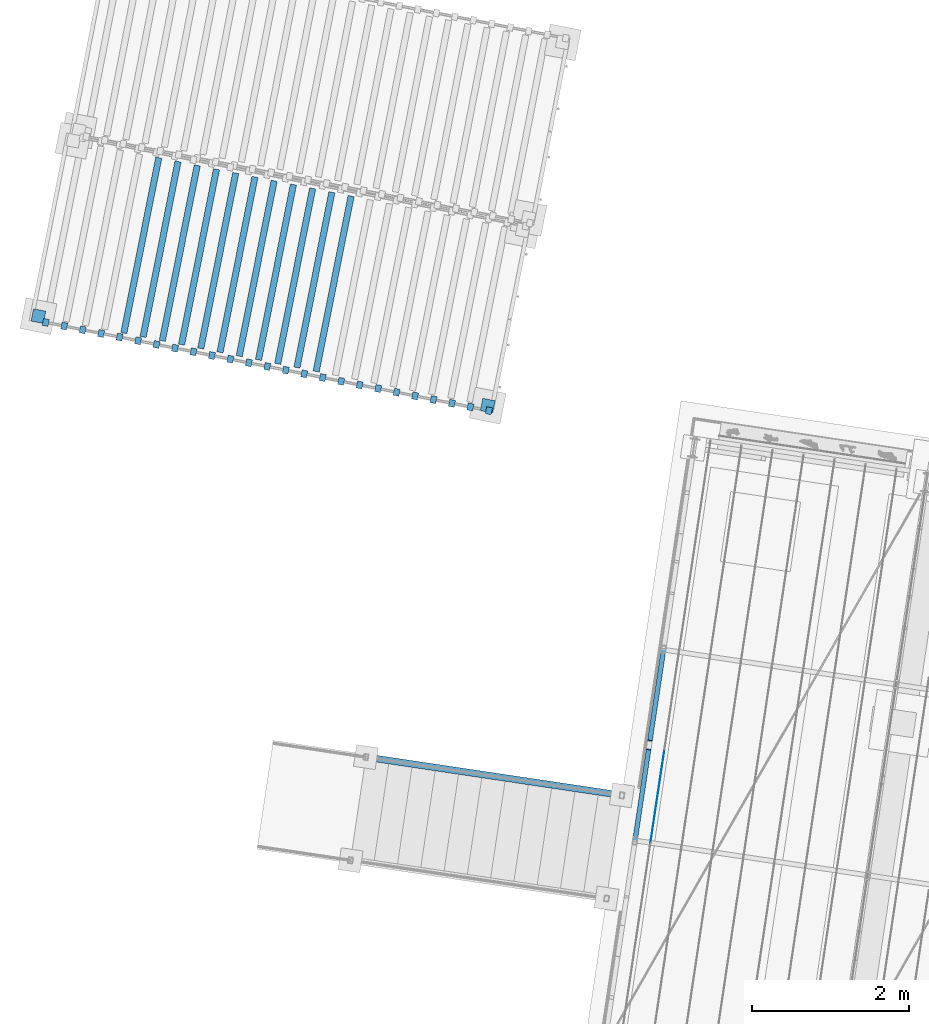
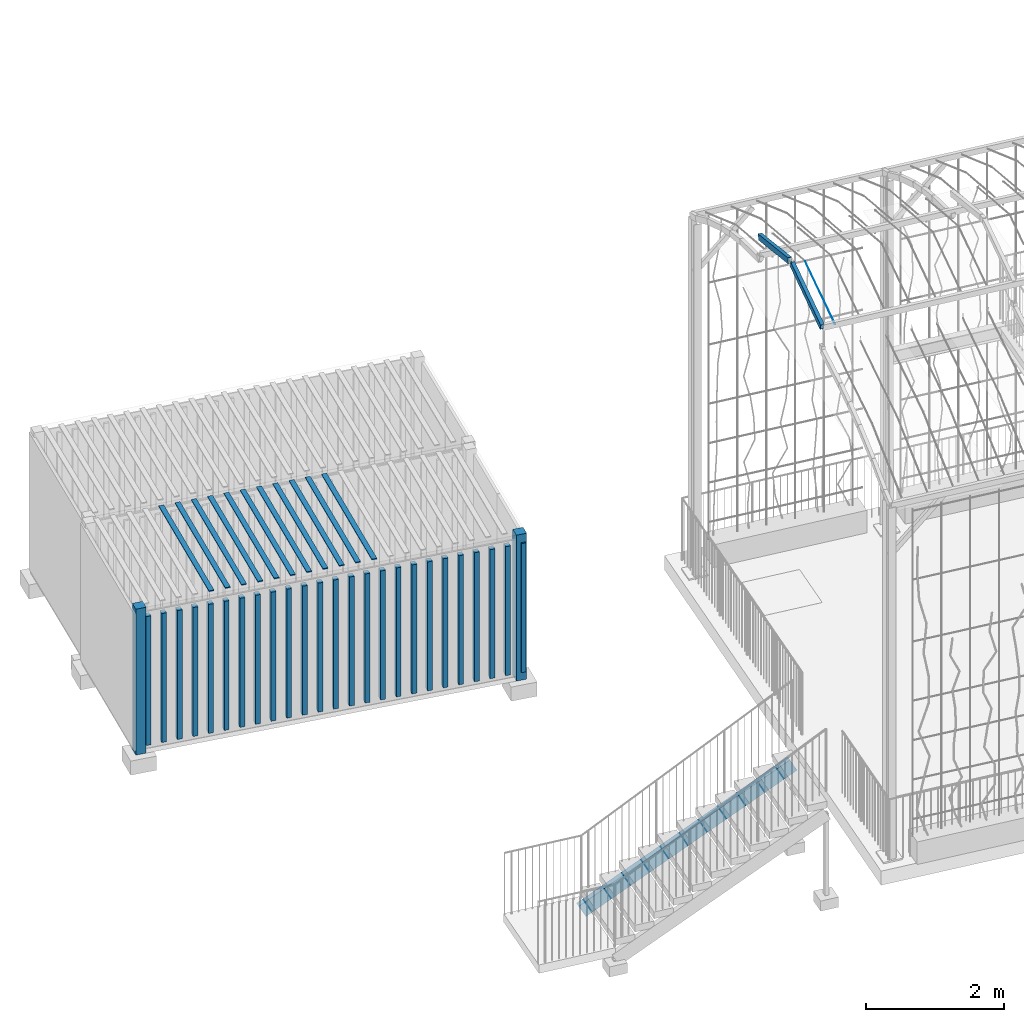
# One storey, part 26 of 142: 42 members, 3 elements without a shape of their own.
"""IFC4 building model written with IfcOpenShell, lengths in metres."""

from ifc_helpers import new_model, si_unit, direction, frame, origin_with_axes, place, context, subcontext, project, spatial, polyline, hollow_rectangle, circle, outline, extrude, material, material_profile, profile_set, profile_usage, type_object, element, aggregate, save


model = new_model("IFC4")

# Units and contexts
model_context = context("Model", 3, precision=1e-05, world=origin_with_axes(), true_north=direction((0.0, 1.0)))
body_context = subcontext(model_context, "Body", "Model", "MODEL_VIEW")
ifc_project = project(units=[si_unit("AREAUNIT", "SQUARE_METRE"), si_unit("VOLUMEUNIT", "CUBIC_METRE"), si_unit("LENGTHUNIT", "METRE")], contexts=[model_context])

# Site, building, storey
site_placement = place(None, origin_with_axes())
site = spatial("IfcSite", under=ifc_project, at=site_placement, Name="Lares · Rua das Mercês · artigo 4771")
building_placement = place(site_placement, frame((15.0, 9.7, 14.65), z_axis=(0.0, 0.0, 1.0), x_axis=(0.989015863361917, -0.147809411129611, 0.0)))
building = spatial("IfcBuilding", under=site, at=building_placement, Name="Casa Sobreposta")
storey_placement = place(building_placement, origin_with_axes())
storey = spatial("IfcBuildingStorey", under=building, at=storey_placement, Name="00 · Habitação e estacionamento", Elevation=14.65)

# Stair, member
stair_placement = place(storey_placement, origin_with_axes())
stair = element("IfcStair", 1, at=stair_placement, inside=storey, Name="Jardim · escada pela fachada poente", PredefinedType="STRAIGHT_RUN_STAIR")
ifc_material_1 = material(Name="Aço pintado / Stahl lackiert", Category="steel")
ifc_material_profile_1 = material_profile(ifc_material_1, outline(polyline([(-0.0425, -0.12), (0.0425, -0.12), (0.0425, -0.1102), (-0.0325, -0.1102), (-0.0325, 0.1102), (0.0425, 0.1102), (0.0425, 0.12), (-0.0425, 0.12), (-0.0425, -0.12)])))
ifc_profile_set_1 = profile_set([ifc_material_profile_1], Name="C240")
ifc_profile_usage_1 = profile_usage(ifc_profile_set_1)
member_type_1 = type_object("IfcMemberType", Name="C240 / steel", PredefinedType="NOTDEFINED", material=ifc_profile_set_1)
member_1_placement = place(stair_placement, frame((-6.25, 1.765, -0.419166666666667), z_axis=(-0.883369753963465, 0.0, -0.468676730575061), x_axis=(0.0, 1.0, 0.0)))
member_1 = element("IfcMember", 2, at=member_1_placement, type_object=member_type_1, material=ifc_profile_usage_1, Name="Jardim · longarina poente", context=body_context, shape_type="SweptSolid", body=[
    extrude(outline(polyline([(-0.0425, -0.12), (0.0425, -0.12), (0.0425, -0.1102), (-0.0325, -0.1102), (-0.0325, 0.1102), (0.0425, 0.1102), (0.0425, 0.12), (-0.0425, 0.12), (-0.0425, -0.12)])), origin_with_axes(), (0.0, 0.0, 1.0), 3.73569503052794),
])
aggregate(stair, [member_1])

# Assembly, members
assembly_1_placement = place(storey_placement, origin_with_axes())
assembly_1 = element("IfcElementAssembly", 3, at=assembly_1_placement, inside=storey, Name="Pérgola · prolongamento da estufa 6 m", ObjectType="PERGOLA_GREENHOUSE_EXTENSION", PredefinedType="USERDEFINED")
ifc_material_profile_2 = material_profile(ifc_material_1, hollow_rectangle(XDim=0.06, YDim=0.1, WallThickness=0.004))
ifc_profile_set_2 = profile_set([ifc_material_profile_2], Name="RHS100x60x4")
ifc_profile_usage_2 = profile_usage(ifc_profile_set_2)
member_type_2 = type_object("IfcMemberType", Name="RHS100x60x4 / steel", PredefinedType="NOTDEFINED", material=ifc_profile_set_2)
member_2_placement = place(assembly_1_placement, frame((-6.0, 1.22042020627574, 7.62067689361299), z_axis=(0.0, 0.960073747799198, 0.279747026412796), x_axis=(1.0, 0.0, 0.0)))
member_2 = element("IfcMember", 4, at=member_2_placement, type_object=member_type_2, material=ifc_profile_usage_2, Name="Pérgola · arco contínuo com a estufa", context=body_context, shape_type="SweptSolid", body=[
    extrude(hollow_rectangle(XDim=0.06, YDim=0.1, WallThickness=0.004), origin_with_axes(), (0.0, 0.0, 1.0), 1.23148937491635),
])
ifc_profile_usage_3 = profile_usage(ifc_profile_set_2)
member_3_placement = place(assembly_1_placement, frame((-6.0, 2.49770027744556, 7.96518238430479), z_axis=(0.0, 0.96007374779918, -0.279747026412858), x_axis=(1.0, 0.0, 0.0)))
member_3 = element("IfcMember", 5, at=member_3_placement, type_object=member_type_2, material=ifc_profile_usage_3, Name="Pérgola · arco contínuo com a estufa", context=body_context, shape_type="SweptSolid", body=[
    extrude(hollow_rectangle(XDim=0.06, YDim=0.1, WallThickness=0.004), origin_with_axes(), (0.0, 0.0, 1.0), 1.23148937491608),
])
ifc_material_2 = material(Name="Aço galvanizado / Stahl verzinkt", Category="steel")
ifc_material_profile_3 = material_profile(ifc_material_2, circle(Radius=0.002))
ifc_profile_set_3 = profile_set([ifc_material_profile_3], Name="D0.004")
ifc_profile_usage_4 = profile_usage(ifc_profile_set_3)
member_type_3 = type_object("IfcMemberType", Name="D0.004 / galvanized", PredefinedType="NOTDEFINED", material=ifc_profile_set_3)
member_4_placement = place(assembly_1_placement, frame((-5.8, 1.22042020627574, 7.62067689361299), z_axis=(0.0, 0.960073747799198, 0.279747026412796), x_axis=(1.0, 0.0, 0.0)))
member_4 = element("IfcMember", 6, at=member_4_placement, type_object=member_type_3, material=ifc_profile_usage_4, Name="Pérgola · fio para trepadeiras", context=body_context, shape_type="SweptSolid", body=[
    extrude(circle(Radius=0.002), origin_with_axes(), (0.0, 0.0, 1.0), 1.23148937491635),
])
aggregate(assembly_1, [member_2, member_3, member_4])

assembly_2_placement = place(storey_placement, frame((-14.5932944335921, 6.63122214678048, 0.0), z_axis=(0.0, 0.0, 1.0), x_axis=(0.998832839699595, -0.0483007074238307, 0.0)))
assembly_2 = element("IfcElementAssembly", 7, at=assembly_2_placement, inside=storey, Name="Contentor existente 2 · 6 m", ObjectType="EXISTING_SHIPPING_CONTAINER", PredefinedType="USERDEFINED")
ifc_material_3 = material(Name="Contentor · pintura 2", Category="steel")
member_5_placement = place(assembly_2_placement, frame((0.0, 0.0, -1.3), z_axis=(0.0, 0.0, 1.0), x_axis=(1.0, 0.0, 0.0)))
member_5 = element("IfcMember", 8, at=member_5_placement, material=ifc_material_3, Name="Contentor · canto", context=body_context, shape_type="SweptSolid", body=[
    extrude(outline(polyline([(0.16, 0.0), (0.16, 0.16), (0.0, 0.16), (0.0, 0.0), (0.16, 0.0)])), origin_with_axes(), (0.0, 0.0, 1.0), 2.59),
])
member_6_placement = place(assembly_2_placement, frame((0.0, 0.0, -1.3), z_axis=(0.0, 0.0, 1.0), x_axis=(1.0, 0.0, 0.0)))
member_6 = element("IfcMember", 9, at=member_6_placement, material=ifc_material_3, Name="Contentor · canto", context=body_context, shape_type="SweptSolid", body=[
    extrude(outline(polyline([(6.0, 0.0), (6.0, 0.16), (5.84, 0.16), (5.84, 0.0), (6.0, 0.0)])), origin_with_axes(), (0.0, 0.0, 1.0), 2.59),
])
member_7_placement = place(assembly_2_placement, frame((0.0, 0.0, -1.15), z_axis=(0.0, 0.0, 1.0), x_axis=(1.0, 0.0, 0.0)))
member_7 = element("IfcMember", 10, at=member_7_placement, material=ifc_material_3, Name="Contentor · nervura lateral", context=body_context, shape_type="SweptSolid", body=[
    extrude(outline(polyline([(0.225, -0.025), (0.225, 0.065), (0.15, 0.065), (0.15, -0.025), (0.225, -0.025)])), origin_with_axes(), (0.0, 0.0, 1.0), 2.29),
])
member_8_placement = place(assembly_2_placement, frame((0.0, 0.0, -1.15), z_axis=(0.0, 0.0, 1.0), x_axis=(1.0, 0.0, 0.0)))
member_8 = element("IfcMember", 11, at=member_8_placement, material=ifc_material_3, Name="Contentor · nervura lateral", context=body_context, shape_type="SweptSolid", body=[
    extrude(outline(polyline([(0.465, -0.025), (0.465, 0.065), (0.39, 0.065), (0.39, -0.025), (0.465, -0.025)])), origin_with_axes(), (0.0, 0.0, 1.0), 2.29),
])
member_9_placement = place(assembly_2_placement, frame((0.0, 0.0, -1.15), z_axis=(0.0, 0.0, 1.0), x_axis=(1.0, 0.0, 0.0)))
member_9 = element("IfcMember", 12, at=member_9_placement, material=ifc_material_3, Name="Contentor · nervura lateral", context=body_context, shape_type="SweptSolid", body=[
    extrude(outline(polyline([(0.705, -0.025), (0.705, 0.065), (0.63, 0.065), (0.63, -0.025), (0.705, -0.025)])), origin_with_axes(), (0.0, 0.0, 1.0), 2.29),
])
member_10_placement = place(assembly_2_placement, frame((0.0, 0.0, -1.15), z_axis=(0.0, 0.0, 1.0), x_axis=(1.0, 0.0, 0.0)))
member_10 = element("IfcMember", 13, at=member_10_placement, material=ifc_material_3, Name="Contentor · nervura lateral", context=body_context, shape_type="SweptSolid", body=[
    extrude(outline(polyline([(0.945, -0.025), (0.945, 0.065), (0.87, 0.065), (0.87, -0.025), (0.945, -0.025)])), origin_with_axes(), (0.0, 0.0, 1.0), 2.29),
])
member_11_placement = place(assembly_2_placement, frame((0.0, 0.0, -1.15), z_axis=(0.0, 0.0, 1.0), x_axis=(1.0, 0.0, 0.0)))
member_11 = element("IfcMember", 14, at=member_11_placement, material=ifc_material_3, Name="Contentor · nervura lateral", context=body_context, shape_type="SweptSolid", body=[
    extrude(outline(polyline([(1.185, -0.025), (1.185, 0.065), (1.11, 0.065), (1.11, -0.025), (1.185, -0.025)])), origin_with_axes(), (0.0, 0.0, 1.0), 2.29),
])
member_12_placement = place(assembly_2_placement, frame((0.0, 0.0, -1.15), z_axis=(0.0, 0.0, 1.0), x_axis=(1.0, 0.0, 0.0)))
member_12 = element("IfcMember", 15, at=member_12_placement, material=ifc_material_3, Name="Contentor · nervura lateral", context=body_context, shape_type="SweptSolid", body=[
    extrude(outline(polyline([(1.425, -0.025), (1.425, 0.065), (1.35, 0.065), (1.35, -0.025), (1.425, -0.025)])), origin_with_axes(), (0.0, 0.0, 1.0), 2.29),
])
member_13_placement = place(assembly_2_placement, frame((0.0, 0.0, -1.15), z_axis=(0.0, 0.0, 1.0), x_axis=(1.0, 0.0, 0.0)))
member_13 = element("IfcMember", 16, at=member_13_placement, material=ifc_material_3, Name="Contentor · nervura lateral", context=body_context, shape_type="SweptSolid", body=[
    extrude(outline(polyline([(1.665, -0.025), (1.665, 0.065), (1.59, 0.065), (1.59, -0.025), (1.665, -0.025)])), origin_with_axes(), (0.0, 0.0, 1.0), 2.29),
])
member_14_placement = place(assembly_2_placement, frame((0.0, 0.0, -1.15), z_axis=(0.0, 0.0, 1.0), x_axis=(1.0, 0.0, 0.0)))
member_14 = element("IfcMember", 17, at=member_14_placement, material=ifc_material_3, Name="Contentor · nervura lateral", context=body_context, shape_type="SweptSolid", body=[
    extrude(outline(polyline([(1.905, -0.025), (1.905, 0.065), (1.83, 0.065), (1.83, -0.025), (1.905, -0.025)])), origin_with_axes(), (0.0, 0.0, 1.0), 2.29),
])
member_15_placement = place(assembly_2_placement, frame((0.0, 0.0, -1.15), z_axis=(0.0, 0.0, 1.0), x_axis=(1.0, 0.0, 0.0)))
member_15 = element("IfcMember", 18, at=member_15_placement, material=ifc_material_3, Name="Contentor · nervura lateral", context=body_context, shape_type="SweptSolid", body=[
    extrude(outline(polyline([(2.145, -0.025), (2.145, 0.065), (2.07, 0.065), (2.07, -0.025), (2.145, -0.025)])), origin_with_axes(), (0.0, 0.0, 1.0), 2.29),
])
member_16_placement = place(assembly_2_placement, frame((0.0, 0.0, -1.15), z_axis=(0.0, 0.0, 1.0), x_axis=(1.0, 0.0, 0.0)))
member_16 = element("IfcMember", 19, at=member_16_placement, material=ifc_material_3, Name="Contentor · nervura lateral", context=body_context, shape_type="SweptSolid", body=[
    extrude(outline(polyline([(2.385, -0.025), (2.385, 0.065), (2.31, 0.065), (2.31, -0.025), (2.385, -0.025)])), origin_with_axes(), (0.0, 0.0, 1.0), 2.29),
])
member_17_placement = place(assembly_2_placement, frame((0.0, 0.0, -1.15), z_axis=(0.0, 0.0, 1.0), x_axis=(1.0, 0.0, 0.0)))
member_17 = element("IfcMember", 20, at=member_17_placement, material=ifc_material_3, Name="Contentor · nervura lateral", context=body_context, shape_type="SweptSolid", body=[
    extrude(outline(polyline([(2.625, -0.025), (2.625, 0.065), (2.55, 0.065), (2.55, -0.025), (2.625, -0.025)])), origin_with_axes(), (0.0, 0.0, 1.0), 2.29),
])
member_18_placement = place(assembly_2_placement, frame((0.0, 0.0, -1.15), z_axis=(0.0, 0.0, 1.0), x_axis=(1.0, 0.0, 0.0)))
member_18 = element("IfcMember", 21, at=member_18_placement, material=ifc_material_3, Name="Contentor · nervura lateral", context=body_context, shape_type="SweptSolid", body=[
    extrude(outline(polyline([(2.865, -0.025), (2.865, 0.065), (2.79, 0.065), (2.79, -0.025), (2.865, -0.025)])), origin_with_axes(), (0.0, 0.0, 1.0), 2.29),
])
member_19_placement = place(assembly_2_placement, frame((0.0, 0.0, -1.15), z_axis=(0.0, 0.0, 1.0), x_axis=(1.0, 0.0, 0.0)))
member_19 = element("IfcMember", 22, at=member_19_placement, material=ifc_material_3, Name="Contentor · nervura lateral", context=body_context, shape_type="SweptSolid", body=[
    extrude(outline(polyline([(3.105, -0.025), (3.105, 0.065), (3.03, 0.065), (3.03, -0.025), (3.105, -0.025)])), origin_with_axes(), (0.0, 0.0, 1.0), 2.29),
])
member_20_placement = place(assembly_2_placement, frame((0.0, 0.0, -1.15), z_axis=(0.0, 0.0, 1.0), x_axis=(1.0, 0.0, 0.0)))
member_20 = element("IfcMember", 23, at=member_20_placement, material=ifc_material_3, Name="Contentor · nervura lateral", context=body_context, shape_type="SweptSolid", body=[
    extrude(outline(polyline([(3.345, -0.025), (3.345, 0.065), (3.27, 0.065), (3.27, -0.025), (3.345, -0.025)])), origin_with_axes(), (0.0, 0.0, 1.0), 2.29),
])
member_21_placement = place(assembly_2_placement, frame((0.0, 0.0, -1.15), z_axis=(0.0, 0.0, 1.0), x_axis=(1.0, 0.0, 0.0)))
member_21 = element("IfcMember", 24, at=member_21_placement, material=ifc_material_3, Name="Contentor · nervura lateral", context=body_context, shape_type="SweptSolid", body=[
    extrude(outline(polyline([(3.585, -0.025), (3.585, 0.065), (3.51, 0.065), (3.51, -0.025), (3.585, -0.025)])), origin_with_axes(), (0.0, 0.0, 1.0), 2.29),
])
member_22_placement = place(assembly_2_placement, frame((0.0, 0.0, -1.15), z_axis=(0.0, 0.0, 1.0), x_axis=(1.0, 0.0, 0.0)))
member_22 = element("IfcMember", 25, at=member_22_placement, material=ifc_material_3, Name="Contentor · nervura lateral", context=body_context, shape_type="SweptSolid", body=[
    extrude(outline(polyline([(3.825, -0.025), (3.825, 0.065), (3.75, 0.065), (3.75, -0.025), (3.825, -0.025)])), origin_with_axes(), (0.0, 0.0, 1.0), 2.29),
])
member_23_placement = place(assembly_2_placement, frame((0.0, 0.0, -1.15), z_axis=(0.0, 0.0, 1.0), x_axis=(1.0, 0.0, 0.0)))
member_23 = element("IfcMember", 26, at=member_23_placement, material=ifc_material_3, Name="Contentor · nervura lateral", context=body_context, shape_type="SweptSolid", body=[
    extrude(outline(polyline([(4.065, -0.025), (4.065, 0.065), (3.99, 0.065), (3.99, -0.025), (4.065, -0.025)])), origin_with_axes(), (0.0, 0.0, 1.0), 2.29),
])
member_24_placement = place(assembly_2_placement, frame((0.0, 0.0, -1.15), z_axis=(0.0, 0.0, 1.0), x_axis=(1.0, 0.0, 0.0)))
member_24 = element("IfcMember", 27, at=member_24_placement, material=ifc_material_3, Name="Contentor · nervura lateral", context=body_context, shape_type="SweptSolid", body=[
    extrude(outline(polyline([(4.305, -0.025), (4.305, 0.065), (4.23, 0.065), (4.23, -0.025), (4.305, -0.025)])), origin_with_axes(), (0.0, 0.0, 1.0), 2.29),
])
member_25_placement = place(assembly_2_placement, frame((0.0, 0.0, -1.15), z_axis=(0.0, 0.0, 1.0), x_axis=(1.0, 0.0, 0.0)))
member_25 = element("IfcMember", 28, at=member_25_placement, material=ifc_material_3, Name="Contentor · nervura lateral", context=body_context, shape_type="SweptSolid", body=[
    extrude(outline(polyline([(4.545, -0.025), (4.545, 0.065), (4.47, 0.065), (4.47, -0.025), (4.545, -0.025)])), origin_with_axes(), (0.0, 0.0, 1.0), 2.29),
])
member_26_placement = place(assembly_2_placement, frame((0.0, 0.0, -1.15), z_axis=(0.0, 0.0, 1.0), x_axis=(1.0, 0.0, 0.0)))
member_26 = element("IfcMember", 29, at=member_26_placement, material=ifc_material_3, Name="Contentor · nervura lateral", context=body_context, shape_type="SweptSolid", body=[
    extrude(outline(polyline([(4.785, -0.025), (4.785, 0.065), (4.71, 0.065), (4.71, -0.025), (4.785, -0.025)])), origin_with_axes(), (0.0, 0.0, 1.0), 2.29),
])
member_27_placement = place(assembly_2_placement, frame((0.0, 0.0, -1.15), z_axis=(0.0, 0.0, 1.0), x_axis=(1.0, 0.0, 0.0)))
member_27 = element("IfcMember", 30, at=member_27_placement, material=ifc_material_3, Name="Contentor · nervura lateral", context=body_context, shape_type="SweptSolid", body=[
    extrude(outline(polyline([(5.025, -0.025), (5.025, 0.065), (4.95, 0.065), (4.95, -0.025), (5.025, -0.025)])), origin_with_axes(), (0.0, 0.0, 1.0), 2.29),
])
member_28_placement = place(assembly_2_placement, frame((0.0, 0.0, -1.15), z_axis=(0.0, 0.0, 1.0), x_axis=(1.0, 0.0, 0.0)))
member_28 = element("IfcMember", 31, at=member_28_placement, material=ifc_material_3, Name="Contentor · nervura lateral", context=body_context, shape_type="SweptSolid", body=[
    extrude(outline(polyline([(5.265, -0.025), (5.265, 0.065), (5.19, 0.065), (5.19, -0.025), (5.265, -0.025)])), origin_with_axes(), (0.0, 0.0, 1.0), 2.29),
])
member_29_placement = place(assembly_2_placement, frame((0.0, 0.0, -1.15), z_axis=(0.0, 0.0, 1.0), x_axis=(1.0, 0.0, 0.0)))
member_29 = element("IfcMember", 32, at=member_29_placement, material=ifc_material_3, Name="Contentor · nervura lateral", context=body_context, shape_type="SweptSolid", body=[
    extrude(outline(polyline([(5.505, -0.025), (5.505, 0.065), (5.43, 0.065), (5.43, -0.025), (5.505, -0.025)])), origin_with_axes(), (0.0, 0.0, 1.0), 2.29),
])
member_30_placement = place(assembly_2_placement, frame((0.0, 0.0, -1.15), z_axis=(0.0, 0.0, 1.0), x_axis=(1.0, 0.0, 0.0)))
member_30 = element("IfcMember", 33, at=member_30_placement, material=ifc_material_3, Name="Contentor · nervura lateral", context=body_context, shape_type="SweptSolid", body=[
    extrude(outline(polyline([(5.745, -0.025), (5.745, 0.065), (5.67, 0.065), (5.67, -0.025), (5.745, -0.025)])), origin_with_axes(), (0.0, 0.0, 1.0), 2.29),
])
member_31_placement = place(assembly_2_placement, frame((0.0, 0.0, -1.15), z_axis=(0.0, 0.0, 1.0), x_axis=(1.0, 0.0, 0.0)))
member_31 = element("IfcMember", 34, at=member_31_placement, material=ifc_material_3, Name="Contentor · nervura lateral", context=body_context, shape_type="SweptSolid", body=[
    extrude(outline(polyline([(5.985, -0.025), (5.985, 0.065), (5.91, 0.065), (5.91, -0.025), (5.985, -0.025)])), origin_with_axes(), (0.0, 0.0, 1.0), 2.29),
])
member_32_placement = place(assembly_2_placement, frame((0.0, 0.0, 1.285), z_axis=(0.0, 0.0, 1.0), x_axis=(1.0, 0.0, 0.0)))
member_32 = element("IfcMember", 35, at=member_32_placement, material=ifc_material_3, Name="Contentor · nervura cobertura", context=body_context, shape_type="SweptSolid", body=[
    extrude(outline(polyline([(1.23, 0.08), (1.23, 2.36), (1.15, 2.36), (1.15, 0.08), (1.23, 0.08)])), origin_with_axes(), (0.0, 0.0, 1.0), 0.018),
])
member_33_placement = place(assembly_2_placement, frame((0.0, 0.0, 1.285), z_axis=(0.0, 0.0, 1.0), x_axis=(1.0, 0.0, 0.0)))
member_33 = element("IfcMember", 36, at=member_33_placement, material=ifc_material_3, Name="Contentor · nervura cobertura", context=body_context, shape_type="SweptSolid", body=[
    extrude(outline(polyline([(1.48, 0.08), (1.48, 2.36), (1.4, 2.36), (1.4, 0.08), (1.48, 0.08)])), origin_with_axes(), (0.0, 0.0, 1.0), 0.018),
])
member_34_placement = place(assembly_2_placement, frame((0.0, 0.0, 1.285), z_axis=(0.0, 0.0, 1.0), x_axis=(1.0, 0.0, 0.0)))
member_34 = element("IfcMember", 37, at=member_34_placement, material=ifc_material_3, Name="Contentor · nervura cobertura", context=body_context, shape_type="SweptSolid", body=[
    extrude(outline(polyline([(1.73, 0.08), (1.73, 2.36), (1.65, 2.36), (1.65, 0.08), (1.73, 0.08)])), origin_with_axes(), (0.0, 0.0, 1.0), 0.018),
])
member_35_placement = place(assembly_2_placement, frame((0.0, 0.0, 1.285), z_axis=(0.0, 0.0, 1.0), x_axis=(1.0, 0.0, 0.0)))
member_35 = element("IfcMember", 38, at=member_35_placement, material=ifc_material_3, Name="Contentor · nervura cobertura", context=body_context, shape_type="SweptSolid", body=[
    extrude(outline(polyline([(1.98, 0.08), (1.98, 2.36), (1.9, 2.36), (1.9, 0.08), (1.98, 0.08)])), origin_with_axes(), (0.0, 0.0, 1.0), 0.018),
])
member_36_placement = place(assembly_2_placement, frame((0.0, 0.0, 1.285), z_axis=(0.0, 0.0, 1.0), x_axis=(1.0, 0.0, 0.0)))
member_36 = element("IfcMember", 39, at=member_36_placement, material=ifc_material_3, Name="Contentor · nervura cobertura", context=body_context, shape_type="SweptSolid", body=[
    extrude(outline(polyline([(2.23, 0.08), (2.23, 2.36), (2.15, 2.36), (2.15, 0.08), (2.23, 0.08)])), origin_with_axes(), (0.0, 0.0, 1.0), 0.018),
])
member_37_placement = place(assembly_2_placement, frame((0.0, 0.0, 1.285), z_axis=(0.0, 0.0, 1.0), x_axis=(1.0, 0.0, 0.0)))
member_37 = element("IfcMember", 40, at=member_37_placement, material=ifc_material_3, Name="Contentor · nervura cobertura", context=body_context, shape_type="SweptSolid", body=[
    extrude(outline(polyline([(2.48, 0.08), (2.48, 2.36), (2.4, 2.36), (2.4, 0.08), (2.48, 0.08)])), origin_with_axes(), (0.0, 0.0, 1.0), 0.018),
])
member_38_placement = place(assembly_2_placement, frame((0.0, 0.0, 1.285), z_axis=(0.0, 0.0, 1.0), x_axis=(1.0, 0.0, 0.0)))
member_38 = element("IfcMember", 41, at=member_38_placement, material=ifc_material_3, Name="Contentor · nervura cobertura", context=body_context, shape_type="SweptSolid", body=[
    extrude(outline(polyline([(2.73, 0.08), (2.73, 2.36), (2.65, 2.36), (2.65, 0.08), (2.73, 0.08)])), origin_with_axes(), (0.0, 0.0, 1.0), 0.018),
])
member_39_placement = place(assembly_2_placement, frame((0.0, 0.0, 1.285), z_axis=(0.0, 0.0, 1.0), x_axis=(1.0, 0.0, 0.0)))
member_39 = element("IfcMember", 42, at=member_39_placement, material=ifc_material_3, Name="Contentor · nervura cobertura", context=body_context, shape_type="SweptSolid", body=[
    extrude(outline(polyline([(2.98, 0.08), (2.98, 2.36), (2.9, 2.36), (2.9, 0.08), (2.98, 0.08)])), origin_with_axes(), (0.0, 0.0, 1.0), 0.018),
])
member_40_placement = place(assembly_2_placement, frame((0.0, 0.0, 1.285), z_axis=(0.0, 0.0, 1.0), x_axis=(1.0, 0.0, 0.0)))
member_40 = element("IfcMember", 43, at=member_40_placement, material=ifc_material_3, Name="Contentor · nervura cobertura", context=body_context, shape_type="SweptSolid", body=[
    extrude(outline(polyline([(3.23, 0.08), (3.23, 2.36), (3.15, 2.36), (3.15, 0.08), (3.23, 0.08)])), origin_with_axes(), (0.0, 0.0, 1.0), 0.018),
])
member_41_placement = place(assembly_2_placement, frame((0.0, 0.0, 1.285), z_axis=(0.0, 0.0, 1.0), x_axis=(1.0, 0.0, 0.0)))
member_41 = element("IfcMember", 44, at=member_41_placement, material=ifc_material_3, Name="Contentor · nervura cobertura", context=body_context, shape_type="SweptSolid", body=[
    extrude(outline(polyline([(3.48, 0.08), (3.48, 2.36), (3.4, 2.36), (3.4, 0.08), (3.48, 0.08)])), origin_with_axes(), (0.0, 0.0, 1.0), 0.018),
])
member_42_placement = place(assembly_2_placement, frame((0.0, 0.0, 1.285), z_axis=(0.0, 0.0, 1.0), x_axis=(1.0, 0.0, 0.0)))
member_42 = element("IfcMember", 45, at=member_42_placement, material=ifc_material_3, Name="Contentor · nervura cobertura", context=body_context, shape_type="SweptSolid", body=[
    extrude(outline(polyline([(3.73, 0.08), (3.73, 2.36), (3.65, 2.36), (3.65, 0.08), (3.73, 0.08)])), origin_with_axes(), (0.0, 0.0, 1.0), 0.018),
])
aggregate(assembly_2, [member_5, member_6, member_7, member_8, member_9, member_10, member_11, member_12, member_13, member_14, member_15, member_16, member_17, member_18, member_19, member_20, member_21, member_22, member_23, member_24, member_25, member_26, member_27, member_28, member_29, member_30, member_31, member_32, member_33, member_34, member_35, member_36, member_37, member_38, member_39, member_40, member_41, member_42])

save(model, "model.ifc")
